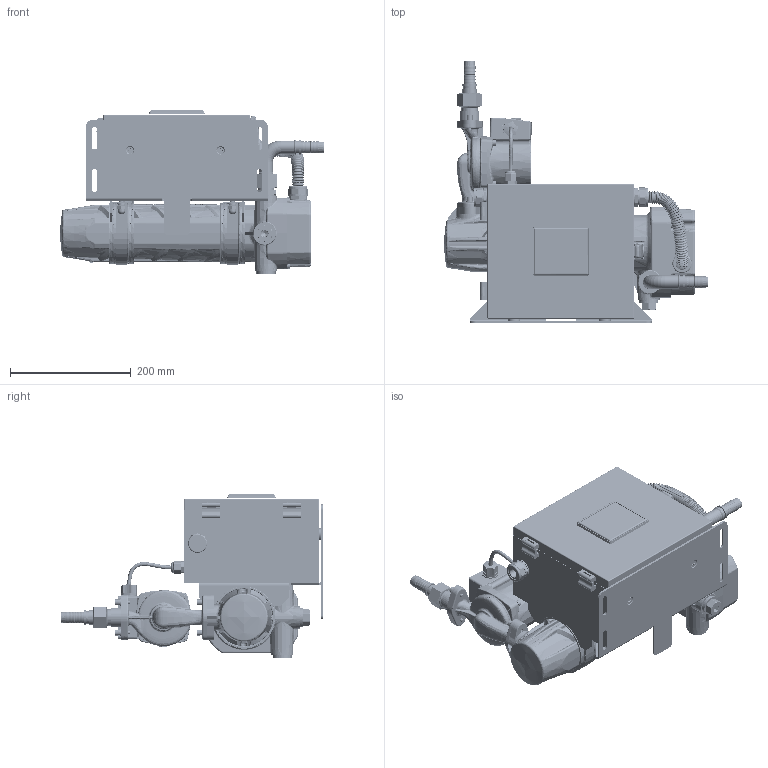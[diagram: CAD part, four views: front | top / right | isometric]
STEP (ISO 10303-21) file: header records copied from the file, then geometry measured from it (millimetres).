
FILE_DESCRIPTION(('CATIA V5 STEP Exchange'),'2;1');
FILE_NAME('C:\Users\Mac\Desktop\2\HWP40R_HWP60R_HWP90R_HWP120R.stp','2025-08-30T02:28:14+00:00',('none'),('none'),'CATIA Version 5 Release 21 GA (IN-10)','CATIA V5 STEP AP214','none');
FILE_SCHEMA(('AUTOMOTIVE_DESIGN { 1 0 10303 214 1 1 1 1 }'));
Products named in the file (1): HWP40R_HWP60R_HWP90R_HWP120R
Bounding box: 437.62 x 434.51 x 271.02 mm (x, y, z)
Volume: 12782346.6 mm3; surface area: 1176487.5 mm2
Topology: 56 solids, 58 shells, 8747 faces, 22898 edges, 14307 vertices
Faces by surface type: bspline 4124, cylinder 1984, plane 1650, cone 578, torus 311, sphere 88, extrusion 8, revolution 4
Entity records: 614478 total; most frequent: CARTESIAN_POINT 448366, ORIENTED_EDGE 45512, EDGE_CURVE 22756, DIRECTION 16516, VERTEX_POINT 14305, B_SPLINE_CURVE_WITH_KNOTS 12655, EDGE_LOOP 9041, ADVANCED_FACE 8744
